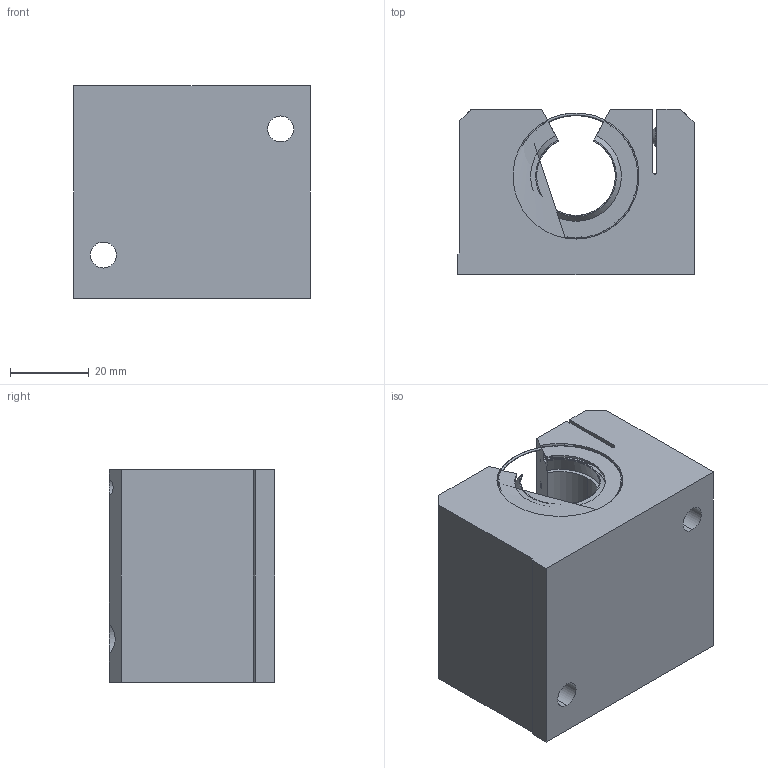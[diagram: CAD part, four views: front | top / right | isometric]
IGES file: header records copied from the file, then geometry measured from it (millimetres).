
Start section: 3D InterOp IGES (Version 21 0 1), Spatial Corp. Copyright (c) 1999-2007.
Global section: file name: SLS-20-OP.igs; native system: Spatial Corp.; preprocessor: 3D InterOp GENERIC/IGES 3.0; author: Noname; organization: Noname; date: 20220310.163703; units: millimetre
Bounding box: 60 x 42 x 54 mm (x, y, z)
Surface area: 24635.5 mm2 (no closed solid volume)
Topology: 0 solids, 0 shells, 140 faces, 782 edges, 772 vertices
Faces by surface type: revolution 94, extrusion 46
